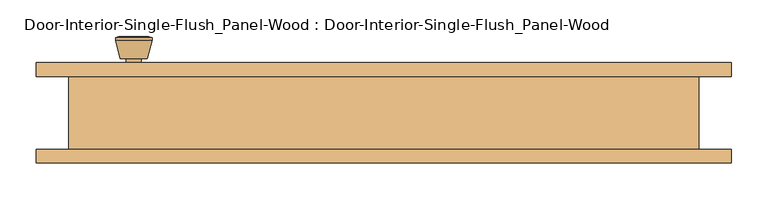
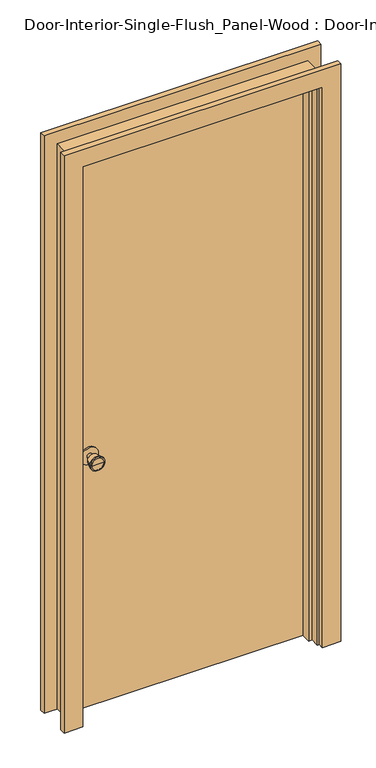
"""IFC4 building model written with IfcOpenShell, lengths in millimetres: door geometry, Door-Interior-Single-Flush_Panel-Wood : Door-Interior-Single-Flush_Panel-Wood."""

from ifc_helpers import new_model, si_unit, point, frame, frame_2d, origin, origin_with_axes, place, context, project, spatial, polyline, circle_curve, trimmed, segment, composite_curve, outline, extrude, faceted_brep, source, transform, mapped, element, save
from ifc_brep_helpers import plane_surface, cylinder_surface, revolved_surface, advanced_brep


def door_interior_single_flush_panel_wood_door_interior_single_45b1ecc8(model_context):
    return source(origin(), model_context, "Body", "SolidModel", [
        advanced_brep(
        [(-342.9, 5.9, 914.4), (-332.9, 5.9, 914.4), (-352.9, 5.9, 914.4), (-322.4241324, -43.1, 914.4), (-342.9, -43.1, 914.4), (-363.3758676, -43.1, 914.4), (-317.9, -41.2721319, 914.4), (-367.9, -41.2721319, 914.4), (-317.9, -37.8084537, 914.4), (-367.9, -37.8084537, 914.4), (-324.263764, -13.1, 914.4), (-361.536236, -13.1, 914.4), (-332.9, -13.1, 914.4), (-352.9, -13.1, 914.4)],
        [
            (0, 1),
            (1, 2, circle_curve(frame((-342.9, 5.9, 914.4), z_axis=(0.0, 1.0, 0.0), x_axis=(-1.0, 0.0, 0.0)), 10.0)),
            (2, 0),
            (2, 1, circle_curve(frame((-342.9, 5.9, 914.4), z_axis=(0.0, 1.0, 0.0), x_axis=(-1.0, 0.0, 0.0)), 10.0)),
            (3, 4),
            (4, 5),
            (5, 3, circle_curve(frame((-342.9, -43.1, 914.4), z_axis=(0.0, -1.0, 0.0), x_axis=(-1.0, 0.0, 0.0)), 20.4758676)),
            (3, 5, circle_curve(frame((-342.9, -43.1, 914.4), z_axis=(0.0, -1.0, 0.0), x_axis=(-1.0, 0.0, 0.0)), 20.4758676)),
            (6, 3),
            (5, 7),
            (7, 6, circle_curve(frame((-342.9, -41.2721319, 914.4), z_axis=(0.0, -1.0, 0.0), x_axis=(-1.0, 0.0, 0.0)), 25.0)),
            (6, 7, circle_curve(frame((-342.9, -41.2721319, 914.4), z_axis=(0.0, -1.0, 0.0), x_axis=(-1.0, 0.0, 0.0)), 25.0)),
            (8, 6),
            (7, 9),
            (9, 8, circle_curve(frame((-342.9, -37.8084537, 914.4), z_axis=(0.0, -1.0, 0.0), x_axis=(-1.0, 0.0, 0.0)), 25.0)),
            (8, 9, circle_curve(frame((-342.9, -37.8084537, 914.4), z_axis=(0.0, -1.0, 0.0), x_axis=(-1.0, 0.0, 0.0)), 25.0)),
            (10, 8),
            (9, 11),
            (11, 10, circle_curve(frame((-342.9, -13.1, 914.4), z_axis=(0.0, -1.0, 0.0), x_axis=(-1.0, 0.0, 0.0)), 18.636236)),
            (10, 11, circle_curve(frame((-342.9, -13.1, 914.4), z_axis=(0.0, -1.0, 0.0), x_axis=(-1.0, 0.0, 0.0)), 18.636236)),
            (12, 10),
            (11, 13),
            (13, 12, circle_curve(frame((-342.9, -13.1, 914.4), z_axis=(0.0, -1.0, 0.0), x_axis=(-1.0, 0.0, 0.0)), 10.0)),
            (12, 13, circle_curve(frame((-342.9, -13.1, 914.4), z_axis=(0.0, -1.0, 0.0), x_axis=(-1.0, 0.0, 0.0)), 10.0)),
            (1, 12),
            (13, 2),
        ],
        [
            plane_surface(frame((-342.9, 5.9, 914.4), z_axis=(0.0, 1.0, 0.0), x_axis=(-1.0, 0.0, 0.0))),
            plane_surface(frame((-342.9, -43.1, 914.4), z_axis=(0.0, -1.0, 0.0), x_axis=(-1.0, 0.0, 0.0))),
            revolved_surface(polyline([(-363.3758676, -43.1, 914.4), (-367.9, -41.2721319, 914.4)]), (-342.9, 5.9, 914.4), (0.0, 1.0, 0.0)),
            cylinder_surface(frame((-342.9, 5.9, 914.4), z_axis=(0.0, 1.0, 0.0), x_axis=(-1.0, 0.0, 0.0)), 25.0),
            revolved_surface(polyline([(-367.9, -37.8084537, 914.4), (-361.536236, -13.1, 914.4)]), (-342.9, 5.9, 914.4), (0.0, 1.0, 0.0)),
            plane_surface(frame((-342.9, -13.1, 914.4), z_axis=(0.0, 1.0, 0.0), x_axis=(-1.0, 0.0, 0.0))),
            cylinder_surface(frame((-342.9, 5.9, 914.4), z_axis=(0.0, 1.0, 0.0), x_axis=(-1.0, 0.0, 0.0)), 10.0),
        ],
        [
            (0, [[1, 2, 3]]),
            (0, [[-3, 4, -1]]),
            (1, [[5, 6, 7]]),
            (1, [[-6, -5, 8]]),
            (2, [[9, -7, 10, 11]]),
            (2, [[-10, -8, -9, 12]]),
            (3, [[13, -11, 14, 15]]),
            (3, [[-14, -12, -13, 16]]),
            (4, [[17, -15, 18, 19]]),
            (4, [[-18, -16, -17, 20]]),
            (5, [[21, -19, 22, 23]]),
            (5, [[-22, -20, -21, 24]]),
            (6, [[25, -23, 26, -2]]),
            (6, [[-26, -24, -25, -4]]),
        ],
    ),
        extrude(outline(composite_curve([segment(trimmed(circle_curve(frame_2d((914.4, -342.9)), 30.0), [point((914.4, -372.9))], [point((914.4, -312.9))], False, "CARTESIAN"), True, "CONTINUOUS"), segment(trimmed(circle_curve(frame_2d((914.4, -342.9)), 30.0), [point((914.4, -312.9))], [point((914.4, -372.9))], False, "CARTESIAN"), True, "CONTINUOUS")], self_intersect=False)), frame((0.0, 5.9, 0.0), z_axis=(0.0, 1.0, 0.0), x_axis=(0.0, 0.0, 1.0)), (0.0, 0.0, 1.0), 6.0),
        advanced_brep(
        [(-342.9, 52.825, 914.4), (-352.9, 52.825, 914.4), (-332.9, 52.825, 914.4), (-322.4241324, 101.825, 914.4), (-363.3758676, 101.825, 914.4), (-342.9, 101.825, 914.4), (-317.9, 99.9971319, 914.4), (-367.9, 99.9971319, 914.4), (-317.9, 96.5334537, 914.4), (-367.9, 96.5334537, 914.4), (-324.263764, 71.825, 914.4), (-361.536236, 71.825, 914.4), (-332.9, 71.825, 914.4), (-352.9, 71.825, 914.4)],
        [
            (0, 1),
            (1, 2, circle_curve(frame((-342.9, 52.825, 914.4), z_axis=(0.0, -1.0, 0.0), x_axis=(-1.0, 0.0, 0.0)), 10.0)),
            (2, 0),
            (2, 1, circle_curve(frame((-342.9, 52.825, 914.4), z_axis=(0.0, -1.0, 0.0), x_axis=(-1.0, 0.0, 0.0)), 10.0)),
            (3, 4, circle_curve(frame((-342.9, 101.825, 914.4), z_axis=(0.0, 1.0, 0.0), x_axis=(-1.0, 0.0, 0.0)), 20.4758676)),
            (4, 5),
            (5, 3),
            (4, 3, circle_curve(frame((-342.9, 101.825, 914.4), z_axis=(0.0, 1.0, 0.0), x_axis=(-1.0, 0.0, 0.0)), 20.4758676)),
            (6, 7, circle_curve(frame((-342.9, 99.9971319, 914.4), z_axis=(0.0, 1.0, 0.0), x_axis=(-1.0, 0.0, 0.0)), 25.0)),
            (7, 4),
            (3, 6),
            (7, 6, circle_curve(frame((-342.9, 99.9971319, 914.4), z_axis=(0.0, 1.0, 0.0), x_axis=(-1.0, 0.0, 0.0)), 25.0)),
            (8, 9, circle_curve(frame((-342.9, 96.5334537, 914.4), z_axis=(0.0, 1.0, 0.0), x_axis=(-1.0, 0.0, 0.0)), 25.0)),
            (9, 7),
            (6, 8),
            (9, 8, circle_curve(frame((-342.9, 96.5334537, 914.4), z_axis=(0.0, 1.0, 0.0), x_axis=(-1.0, 0.0, 0.0)), 25.0)),
            (10, 11, circle_curve(frame((-342.9, 71.825, 914.4), z_axis=(0.0, 1.0, 0.0), x_axis=(-1.0, 0.0, 0.0)), 18.636236)),
            (11, 9),
            (8, 10),
            (11, 10, circle_curve(frame((-342.9, 71.825, 914.4), z_axis=(0.0, 1.0, 0.0), x_axis=(-1.0, 0.0, 0.0)), 18.636236)),
            (12, 13, circle_curve(frame((-342.9, 71.825, 914.4), z_axis=(0.0, 1.0, 0.0), x_axis=(-1.0, 0.0, 0.0)), 10.0)),
            (13, 11),
            (10, 12),
            (13, 12, circle_curve(frame((-342.9, 71.825, 914.4), z_axis=(0.0, 1.0, 0.0), x_axis=(-1.0, 0.0, 0.0)), 10.0)),
            (1, 13),
            (12, 2),
        ],
        [
            plane_surface(frame((-342.9, 52.825, 914.4), z_axis=(0.0, -1.0, 0.0), x_axis=(-1.0, 0.0, 0.0))),
            plane_surface(frame((-342.9, 101.825, 914.4), z_axis=(0.0, 1.0, 0.0), x_axis=(-1.0, 0.0, 0.0))),
            revolved_surface(polyline([(-363.3758676, 101.825, 914.4), (-367.9, 99.9971319, 914.4)]), (-342.9, 52.825, 914.4), (0.0, -1.0, 0.0)),
            cylinder_surface(frame((-342.9, 52.825, 914.4), z_axis=(0.0, -1.0, 0.0), x_axis=(-1.0, 0.0, 0.0)), 25.0),
            revolved_surface(polyline([(-367.9, 96.5334537, 914.4), (-361.536236, 71.825, 914.4)]), (-342.9, 52.825, 914.4), (0.0, -1.0, 0.0)),
            plane_surface(frame((-342.9, 71.825, 914.4), z_axis=(0.0, -1.0, 0.0), x_axis=(-1.0, 0.0, 0.0))),
            cylinder_surface(frame((-342.9, 52.825, 914.4), z_axis=(0.0, -1.0, 0.0), x_axis=(-1.0, 0.0, 0.0)), 10.0),
        ],
        [
            (0, [[1, 2, 3]]),
            (0, [[-3, 4, -1]]),
            (1, [[5, 6, 7]]),
            (1, [[8, -7, -6]]),
            (2, [[9, 10, -5, 11]]),
            (2, [[12, -11, -8, -10]]),
            (3, [[13, 14, -9, 15]]),
            (3, [[16, -15, -12, -14]]),
            (4, [[17, 18, -13, 19]]),
            (4, [[20, -19, -16, -18]]),
            (5, [[21, 22, -17, 23]]),
            (5, [[24, -23, -20, -22]]),
            (6, [[-2, 25, -21, 26]]),
            (6, [[-4, -26, -24, -25]]),
        ],
    ),
        extrude(outline(composite_curve([segment(trimmed(circle_curve(frame_2d((914.4, -342.9)), 30.0), [point((914.4, -372.9))], [point((914.4, -312.9))], False, "CARTESIAN"), True, "CONTINUOUS"), segment(trimmed(circle_curve(frame_2d((914.4, -342.9)), 30.0), [point((914.4, -312.9))], [point((914.4, -372.9))], False, "CARTESIAN"), True, "CONTINUOUS")], self_intersect=False)), frame((0.0, 46.825, 0.0), z_axis=(0.0, 1.0, 0.0), x_axis=(0.0, 0.0, 1.0)), (0.0, 0.0, 1.0), 6.0),
        extrude(outline(polyline([(406.4, 11.9), (-406.4, 11.9), (-406.4, 46.825), (406.4, 46.825), (406.4, 11.9)])), origin_with_axes(), (0.0, 0.0, 1.0), 2032.0),
        faceted_brep([(431.8, 46.825, 0.0), (431.8, -53.175, 0.0), (406.4, -53.175, 0.0), (406.4, -23.025, 0.0), (393.7, -23.025, 0.0), (393.7, 11.9, 0.0), (406.4, 11.9, 0.0), (406.4, 46.825, 0.0), (431.8, 46.825, 2057.4), (431.8, -53.175, 2057.4), (-431.8, -53.175, 2057.4), (-431.8, -53.175, 0.0), (-406.4, -53.175, 0.0), (-406.4, -53.175, 2032.0), (406.4, -53.175, 2032.0), (406.4, -23.025, 2032.0), (-406.4, -23.025, 2032.0), (-406.4, -23.025, 0.0), (-393.7, -23.025, 0.0), (-393.7, -23.025, 2019.3), (393.7, -23.025, 2019.3), (393.7, 11.9, 2019.3), (-393.7, 11.9, 2019.3), (-393.7, 11.9, 0.0), (-406.4, 11.9, 0.0), (-406.4, 11.9, 2032.0), (406.4, 11.9, 2032.0), (406.4, 46.825, 2032.0), (-406.4, 46.825, 2032.0), (-406.4, 46.825, 0.0), (-431.8, 46.825, 0.0), (-431.8, 46.825, 2057.4)], [[[0, 1, 2, 3, 4, 5, 6, 7]], [[1, 0, 8, 9]], [[2, 1, 9, 10, 11, 12, 13, 14]], [[3, 2, 14, 15]], [[4, 3, 15, 16, 17, 18, 19, 20]], [[5, 4, 20, 21]], [[6, 5, 21, 22, 23, 24, 25, 26]], [[7, 6, 26, 27]], [[0, 7, 27, 28, 29, 30, 31, 8]], [[9, 8, 31, 10]], [[15, 14, 13, 16]], [[21, 20, 19, 22]], [[27, 26, 25, 28]], [[30, 29, 24, 23, 18, 17, 12, 11]], [[10, 31, 30, 11]], [[16, 13, 12, 17]], [[22, 19, 18, 23]], [[28, 25, 24, 29]]]),
        extrude(outline(polyline([(0.0, 412.75), (0.0, 476.25), (2101.85, 476.25), (2101.85, -476.25), (0.0, -476.25), (0.0, -412.75), (2038.35, -412.75), (2038.35, 412.75), (0.0, 412.75)])), frame((0.0, -72.225, 0.0), z_axis=(0.0, 1.0, 0.0), x_axis=(0.0, 0.0, 1.0)), (0.0, 0.0, 1.0), 19.05),
        extrude(outline(polyline([(0.0, 412.75), (0.0, 476.25), (2101.85, 476.25), (2101.85, -476.25), (0.0, -476.25), (0.0, -412.75), (2038.35, -412.75), (2038.35, 412.75), (0.0, 412.75)])), frame((0.0, 46.825, 0.0), z_axis=(0.0, 1.0, 0.0), x_axis=(0.0, 0.0, 1.0)), (0.0, 0.0, 1.0), 19.05),
    ])


if __name__ == "__main__":
    model = new_model("IFC4")
    model_context = context("Model", 3, world=origin())
    ifc_project = project(units=[si_unit("LENGTHUNIT", "METRE", prefix="MILLI")], contexts=[model_context])
    site = spatial("IfcSite", under=ifc_project)
    building = spatial("IfcBuilding", under=site)
    placement = place(None, origin())
    door_interior_single_flush_panel_wood_door_interior_single_shape = door_interior_single_flush_panel_wood_door_interior_single_45b1ecc8(model_context)
    element("IfcDoor", 1, ObjectType="Door-Interior-Single-Flush_Panel-Wood : Door-Interior-Single-Flush_Panel-Wood", at=placement, inside=building, context=model_context, shape_type="MappedRepresentation", body=[
        mapped(door_interior_single_flush_panel_wood_door_interior_single_shape, transform((0.0, 0.0, 0.0), x_axis=(1.0, 0.0, 0.0), y_axis=(0.0, 1.0, 0.0), z_axis=(0.0, 0.0, 1.0))),
    ])
    save(model, "model.ifc")
